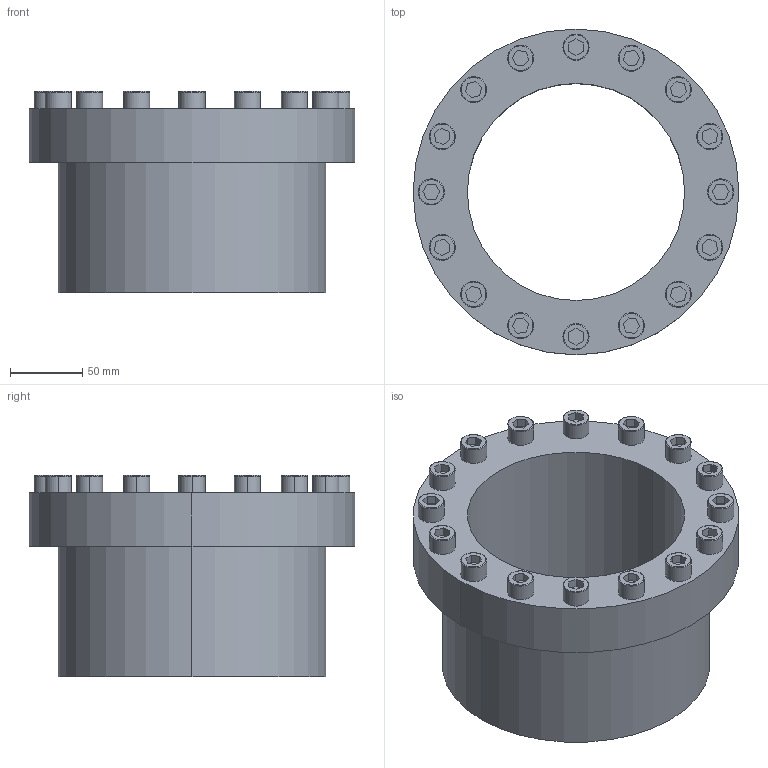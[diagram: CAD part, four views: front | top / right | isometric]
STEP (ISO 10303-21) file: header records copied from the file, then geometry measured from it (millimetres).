
FILE_DESCRIPTION (( 'STEP AP203' ), '1' );
FILE_NAME ('PL-C 150-185.STEP', '2021-10-22T08:48:02', ( '' ), ( '' ), 'SwSTEP 2.0', 'SolidWorks 2018', '' );
FILE_SCHEMA (( 'CONFIG_CONTROL_DESIGN' ));
Length unit declared in the file: millimetre
Products named in the file (1): PL-C 150-185
Bounding box: 225 x 225 x 139 mm (x, y, z)
Volume: 1681364.7 mm3; surface area: 196417.6 mm2
Topology: 1 solids, 1 shells, 201 faces, 466 edges, 300 vertices
Faces by surface type: plane 131, cylinder 38, torus 32
Entity records: 5765 total; most frequent: DIRECTION 1010, CARTESIAN_POINT 968, ORIENTED_EDGE 932, EDGE_CURVE 466, AXIS2_PLACEMENT_3D 342, VECTOR 326, LINE 326, VERTEX_POINT 300
